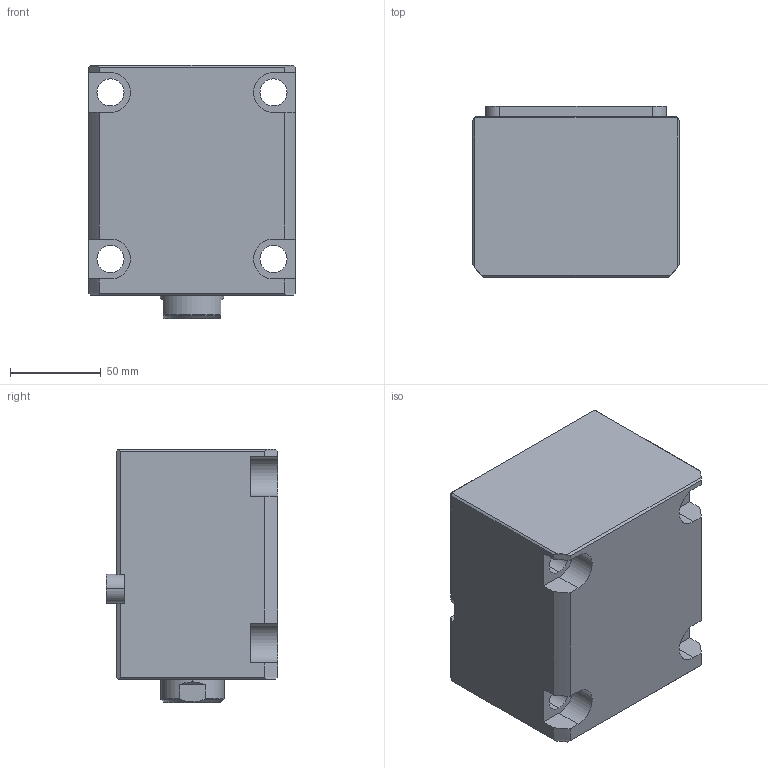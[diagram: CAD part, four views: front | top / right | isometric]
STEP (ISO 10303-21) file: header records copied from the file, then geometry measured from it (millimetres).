
FILE_DESCRIPTION (( 'STEP AP214' ), '1' );
FILE_NAME ('chtb-lam63x60n_asm.STEP', '2018-05-22T03:10:38', ( 'Windows' ), ( 'Microsoft' ), 'SwSTEP 2.0', 'SolidWorks 2015', '' );
FILE_SCHEMA (( 'AUTOMOTIVE_DESIGN' ));
Length unit declared in the file: millimetre
Products named in the file (5): CHTB-LAM63X60NBT; CHTB-LA63PJ; CHTB63X60NHSG; CHTB-63QG; chtb-lam63x60n_asm
Assembly tree (4 placements, depth 2):
  chtb-lam63x60n_asm
    CHTB-63QG
    CHTB63X60NHSG
    CHTB-LA63PJ
    CHTB-LAM63X60NBT
Bounding box: 114 x 94.5 x 140 mm (x, y, z)
Volume: 1084889 mm3; surface area: 158042.1 mm2
Topology: 4 solids, 4 shells, 183 faces, 539 edges, 366 vertices
Faces by surface type: cylinder 99, plane 55, bspline 13, cone 8, torus 8
Entity records: 19040 total; most frequent: CARTESIAN_POINT 14352, ORIENTED_EDGE 1066, DIRECTION 788, EDGE_CURVE 533, VERTEX_POINT 366, AXIS2_PLACEMENT_3D 291, LINE 206, VECTOR 206
